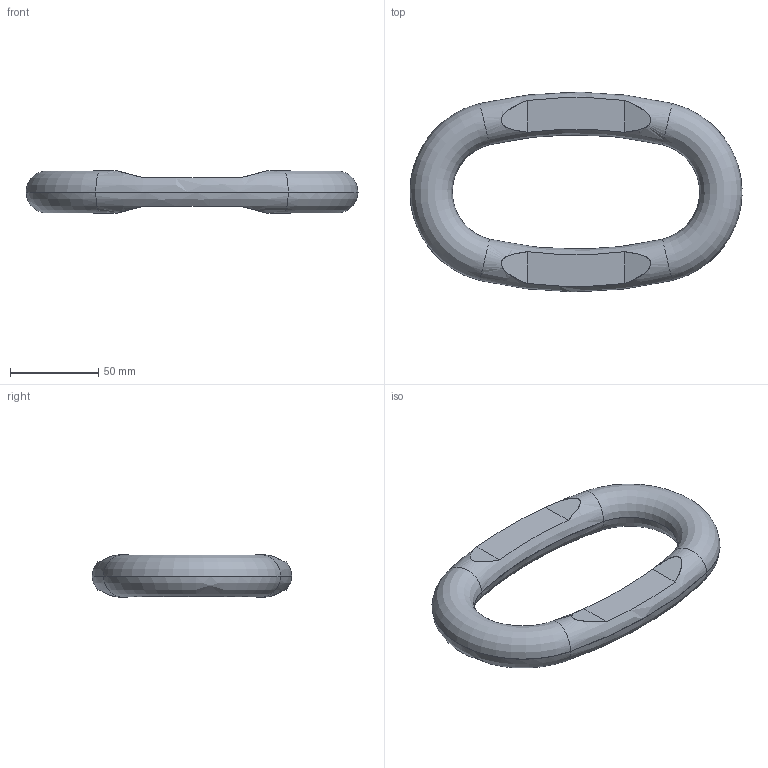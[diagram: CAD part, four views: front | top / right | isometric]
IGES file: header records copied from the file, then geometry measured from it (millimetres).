
Start section:  PTC IGES file: G:\TBM\Rehwagen\Dateitypen\Oval-Glieder\8502177.igs
Global section: file name: G:\TBM\Rehwagen\Dateitypen\Oval-Glieder\8502177.igs; native system: Pro/ENGINEER by Parametric Technology Corporation; preprocessor: 2001400; author: Rehwagena; organization: Unknown; date: 060221.131205; units: millimetre
Bounding box: 187.93 x 112.98 x 24 mm (x, y, z)
Surface area: 31085.6 mm2 (no closed solid volume)
Topology: 0 solids, 0 shells, 20 faces, 80 edges, 80 vertices
Faces by surface type: bspline 12, revolution 8
